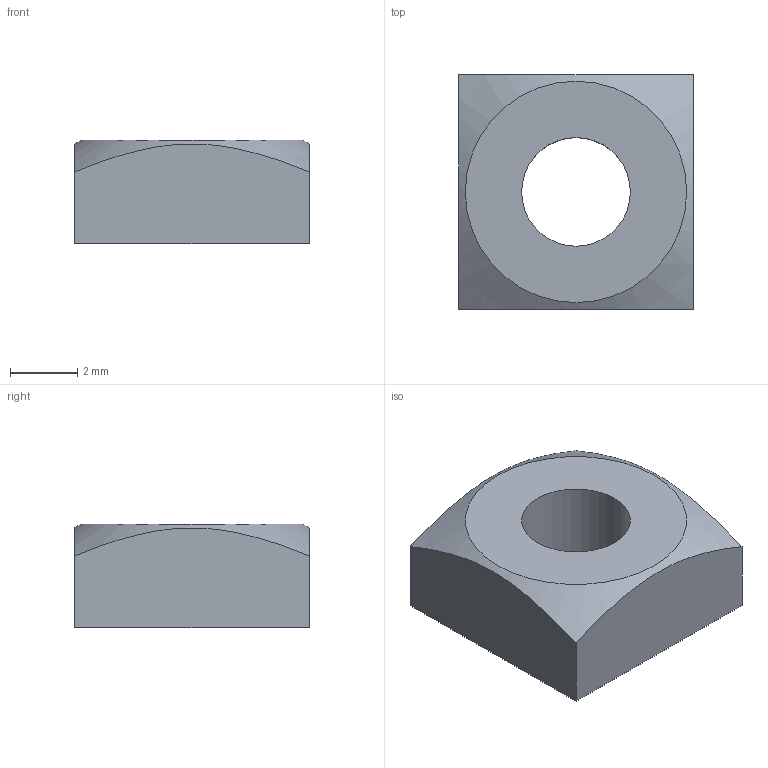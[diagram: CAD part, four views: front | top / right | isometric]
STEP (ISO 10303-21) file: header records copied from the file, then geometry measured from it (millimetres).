
FILE_DESCRIPTION(/* description */ ('ﾕﾆｸﾛﾒｯｷ'),/* implementation_level */ '2;1');
FILE_NAME(/* name */ 'F:\2020 Ver._Content Center\00_Download Data (\X2\FF76FF80FF9BFF78FF9EFF83FF9EFF70FF80FF70\X0\)\25_M4系 ｱｸｾｻﾘ\NT04M4.stp',/* time_stamp */ '2021-05-10T13:01:03+09:00',/* author */ ('TONO-K3-010'),/* organization */ (''),/* preprocessor_version */ 'ST-DEVELOPER v16.5',/* originating_system */ 'Autodesk Inventor 2017',/* authorisation */ 'yamaguchi');
FILE_SCHEMA (('AUTOMOTIVE_DESIGN { 1 0 10303 214 3 1 1 }'));
Length unit declared in the file: millimetre
Products named in the file (1): NT04M4
Bounding box: 7 x 7 x 3.1 mm (x, y, z)
Volume: 122.2 mm3; surface area: 190.6 mm2
Topology: 1 solids, 1 shells, 8 faces, 19 edges, 13 vertices
Faces by surface type: plane 6, cone 1, cylinder 1
Full cylindrical faces by diameter (mm): 3.242 x1
Entity records: 245 total; most frequent: CARTESIAN_POINT 43, DIRECTION 32, ORIENTED_EDGE 30, EDGE_CURVE 15, EDGE_LOOP 12, AXIS2_PLACEMENT_3D 12, VERTEX_POINT 11, LINE 8
